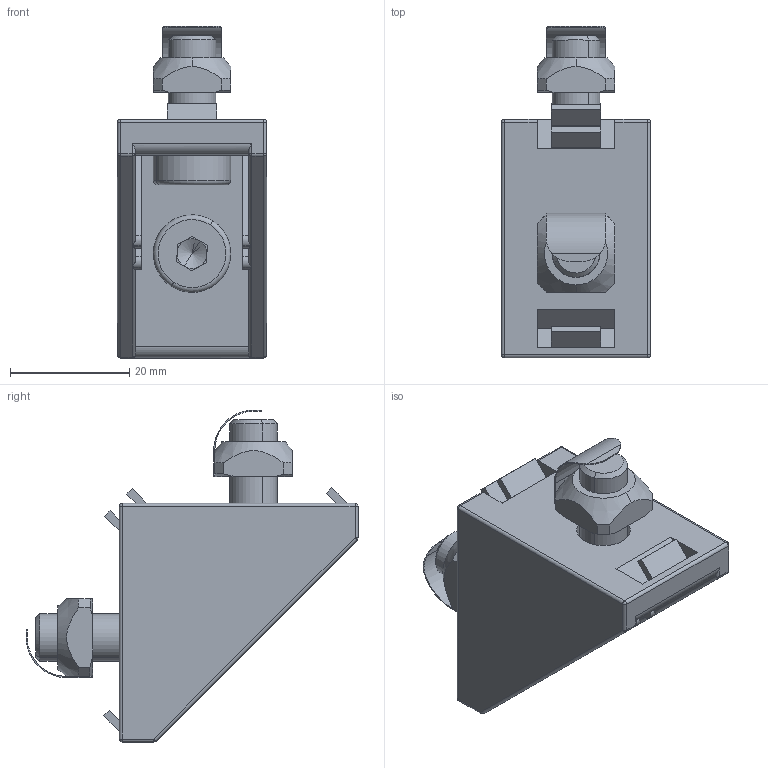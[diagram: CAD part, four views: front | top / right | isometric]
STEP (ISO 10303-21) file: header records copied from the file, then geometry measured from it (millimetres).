
FILE_DESCRIPTION (( 'STEP AP214' ), '1' );
FILE_NAME ('1.3018 Kulma 25.STEP', '2024-01-16T07:35:40', ( '' ), ( '' ), 'SwSTEP 2.0', 'SolidWorks 2024', '' );
FILE_SCHEMA (( 'AUTOMOTIVE_DESIGN' ));
Length unit declared in the file: millimetre
Products named in the file (1): 1.3018 Kulma 25
Bounding box: 25 x 55.65 x 55.65 mm (x, y, z)
Volume: 18186.6 mm3; surface area: 11252.3 mm2
Topology: 5 solids, 5 shells, 239 faces, 593 edges, 356 vertices
Faces by surface type: plane 133, cylinder 66, cone 18, sphere 14, torus 8
Entity records: 9831 total; most frequent: CARTESIAN_POINT 1547, DIRECTION 1161, ORIENTED_EDGE 1154, EDGE_CURVE 577, AXIS2_PLACEMENT_3D 398, VECTOR 365, LINE 365, VERTEX_POINT 356
